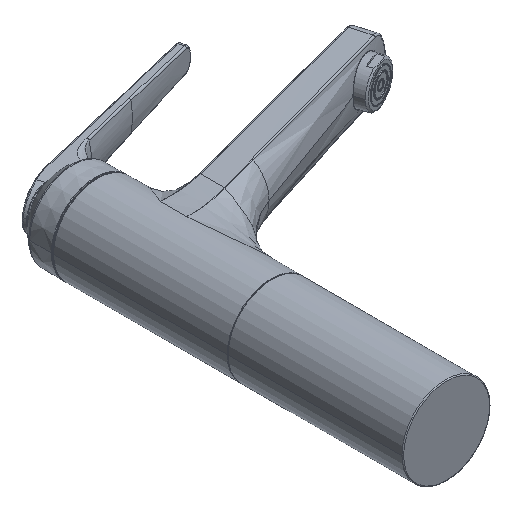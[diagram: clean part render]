
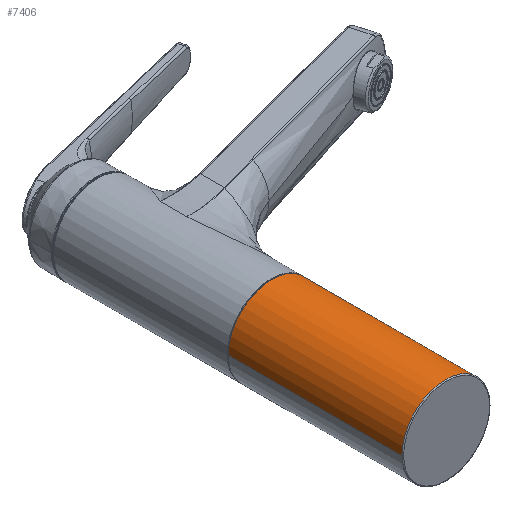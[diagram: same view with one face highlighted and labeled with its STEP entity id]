
A CAD part, isometric view. The second image highlights one B-rep face of the part: STEP entity #7406.
In plain terms, the highlighted cylindrical face has radius 25 mm (diameter 50 mm), a partial arc.
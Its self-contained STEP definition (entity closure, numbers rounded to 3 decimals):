
#1818=DIRECTION('',(0.,1.,0.));
#1819=VECTOR('',#1818,99.);
#1820=CARTESIAN_POINT('',(-25.,-99.5,0.));
#1821=LINE('',#1820,#1819);
#1827=DIRECTION('',(0.,1.,0.));
#1828=VECTOR('',#1827,99.);
#1829=CARTESIAN_POINT('',(25.,-99.5,0.));
#1830=LINE('',#1829,#1828);
#1831=CARTESIAN_POINT('',(0.,-0.5,0.));
#1832=DIRECTION('',(0.,1.,0.));
#1833=DIRECTION('',(-1.,0.,0.));
#1834=AXIS2_PLACEMENT_3D('',#1831,#1832,#1833);
#1836=CARTESIAN_POINT('',(0.,-99.5,0.));
#1837=DIRECTION('',(0.,1.,0.));
#1838=DIRECTION('',(-1.,0.,0.));
#1839=AXIS2_PLACEMENT_3D('',#1836,#1837,#1838);
#4399=CARTESIAN_POINT('',(25.,-0.5,0.));
#4400=CARTESIAN_POINT('',(-25.,-0.5,0.));
#4401=VERTEX_POINT('',#4399);
#4402=VERTEX_POINT('',#4400);
#4403=CARTESIAN_POINT('',(-25.,-99.5,0.));
#4404=CARTESIAN_POINT('',(25.,-99.5,0.));
#4405=VERTEX_POINT('',#4403);
#4406=VERTEX_POINT('',#4404);
#7394=CARTESIAN_POINT('',(0.,5.,0.));
#7395=DIRECTION('',(0.,-1.,0.));
#7396=DIRECTION('',(-1.,0.,0.));
#7397=AXIS2_PLACEMENT_3D('',#7394,#7395,#7396);
#7398=CYLINDRICAL_SURFACE('',#7397,25.);
#7399=ORIENTED_EDGE('',*,*,#7323,.T.);
#7400=ORIENTED_EDGE('',*,*,#7377,.F.);
#7402=ORIENTED_EDGE('',*,*,#7401,.F.);
#7403=ORIENTED_EDGE('',*,*,#7373,.T.);
#7404=EDGE_LOOP('',(#7399,#7400,#7402,#7403));
#7405=FACE_OUTER_BOUND('',#7404,.F.);
#1835=CIRCLE('',#1834,25.);
#1840=CIRCLE('',#1839,25.);
#7323=EDGE_CURVE('',#4402,#4401,#1835,.T.);
#7373=EDGE_CURVE('',#4405,#4402,#1821,.T.);
#7377=EDGE_CURVE('',#4406,#4401,#1830,.T.);
#7401=EDGE_CURVE('',#4405,#4406,#1840,.T.);
#7406=ADVANCED_FACE('',(#7405),#7398,.T.);
